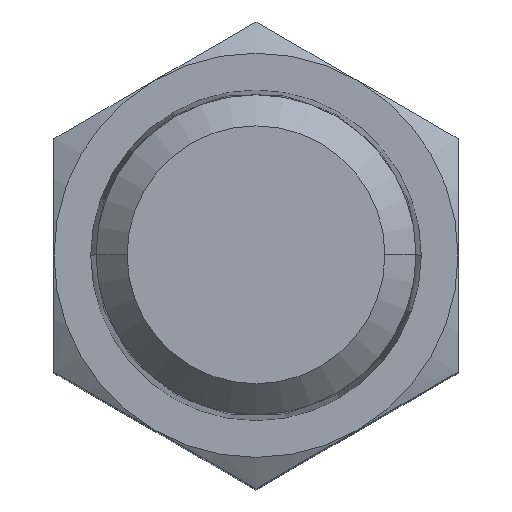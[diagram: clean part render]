
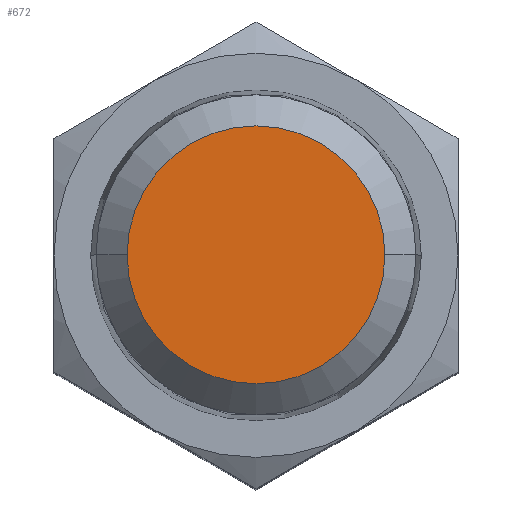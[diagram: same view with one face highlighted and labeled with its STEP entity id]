
A CAD part, top view. The second image highlights one B-rep face of the part: STEP entity #672.
In plain terms, the highlighted planar face has unit normal (0, 0, 1).
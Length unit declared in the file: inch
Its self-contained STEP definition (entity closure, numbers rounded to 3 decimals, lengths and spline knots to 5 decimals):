
#301=CARTESIAN_POINT('',(0.,0.,0.375));
#302=DIRECTION('',(0.,0.,-1.));
#303=DIRECTION('',(1.,0.,0.));
#304=AXIS2_PLACEMENT_3D('',#301,#302,#303);
#306=CARTESIAN_POINT('',(0.,0.,0.375));
#307=DIRECTION('',(0.,0.,-1.));
#308=DIRECTION('',(-1.,0.,0.));
#309=AXIS2_PLACEMENT_3D('',#306,#307,#308);
#381=CARTESIAN_POINT('',(0.1595,0.,0.375));
#382=CARTESIAN_POINT('',(-0.1595,0.,0.375));
#383=VERTEX_POINT('',#381);
#384=VERTEX_POINT('',#382);
#661=CARTESIAN_POINT('',(0.,0.,0.375));
#662=DIRECTION('',(0.,0.,1.));
#663=DIRECTION('',(1.,0.,0.));
#664=AXIS2_PLACEMENT_3D('',#661,#662,#663);
#665=PLANE('',#664);
#667=ORIENTED_EDGE('',*,*,#666,.T.);
#669=ORIENTED_EDGE('',*,*,#668,.T.);
#670=EDGE_LOOP('',(#667,#669));
#671=FACE_OUTER_BOUND('',#670,.F.);
#672=ADVANCED_FACE('',(#671),#665,.T.);
#305=CIRCLE('',#304,0.1595);
#310=CIRCLE('',#309,0.1595);
#666=EDGE_CURVE('',#383,#384,#305,.T.);
#668=EDGE_CURVE('',#384,#383,#310,.T.);
